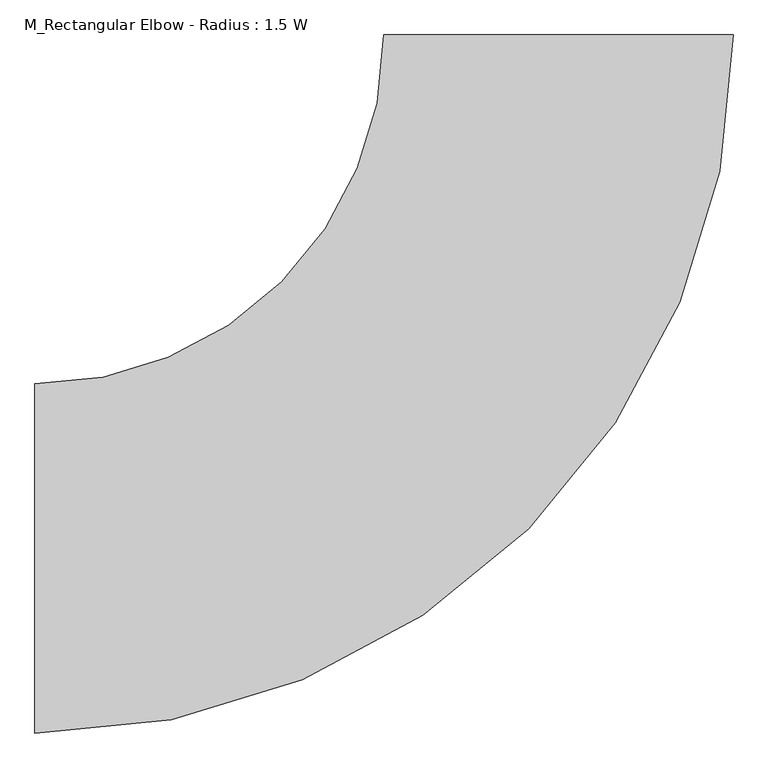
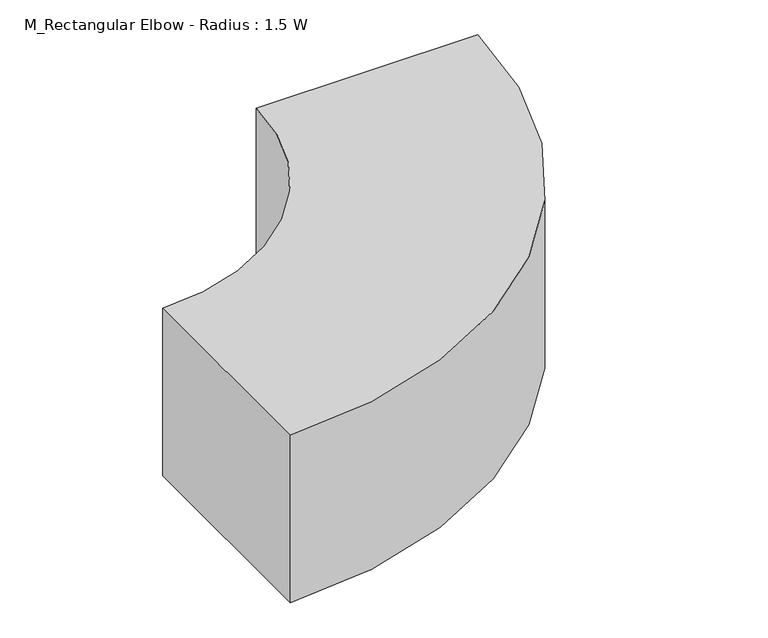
"""IFC4 building model written with IfcOpenShell, lengths in millimetres: duct fitting geometry, M_Rectangular Elbow - Radius : 1.5 W."""

from ifc_helpers import new_model, si_unit, point, frame, frame_2d, origin, place, context, project, spatial, polyline, circle_curve, trimmed, segment, composite_curve, outline, extrude, source, transform, mapped, element, save


def m_rectangular_elbow_radius_1_5_w_08ef6bfe(model_context):
    return source(origin(), model_context, "Body", "SweptSolid", [
        extrude(outline(composite_curve([segment(trimmed(circle_curve(frame_2d((-750.0, 750.0)), 1000.0), [point((250.0, 750.0))], [point((-750.0, -250.0))], False, "CARTESIAN"), True, "CONTINUOUS"), segment(polyline([(-750.0, -250.0), (-750.0, 250.0)]), True, "CONTINUOUS"), segment(trimmed(circle_curve(frame_2d((-750.0, 750.0)), 500.0), [point((-750.0, 250.0))], [point((-250.0, 750.0))], True, "CARTESIAN"), True, "CONTINUOUS"), segment(polyline([(-250.0, 750.0), (250.0, 750.0)]), True, "CONTINUOUS")], self_intersect=False)), frame((0.0, 0.0, -200.0), z_axis=(0.0, 0.0, 1.0), x_axis=(1.0, 0.0, 0.0)), (0.0, 0.0, 1.0), 400.0),
        extrude(outline(composite_curve([segment(trimmed(circle_curve(frame_2d((-750.0, 750.0)), 1000.0), [point((250.0, 750.0))], [point((-750.0, -250.0))], False, "CARTESIAN"), True, "CONTINUOUS"), segment(polyline([(-750.0, -250.0), (-750.0, 250.0)]), True, "CONTINUOUS"), segment(trimmed(circle_curve(frame_2d((-750.0, 750.0)), 500.0), [point((-750.0, 250.0))], [point((-250.0, 750.0))], True, "CARTESIAN"), True, "CONTINUOUS"), segment(polyline([(-250.0, 750.0), (250.0, 750.0)]), True, "CONTINUOUS")], self_intersect=False)), frame((0.0, 0.0, -200.0), z_axis=(0.0, 0.0, 1.0), x_axis=(1.0, 0.0, 0.0)), (0.0, 0.0, 1.0), 400.0),
        extrude(outline(composite_curve([segment(trimmed(circle_curve(frame_2d((-750.0, 750.0)), 1000.0), [point((250.0, 750.0))], [point((-750.0, -250.0))], False, "CARTESIAN"), True, "CONTINUOUS"), segment(polyline([(-750.0, -250.0), (-750.0, 250.0)]), True, "CONTINUOUS"), segment(trimmed(circle_curve(frame_2d((-750.0, 750.0)), 500.0), [point((-750.0, 250.0))], [point((-250.0, 750.0))], True, "CARTESIAN"), True, "CONTINUOUS"), segment(polyline([(-250.0, 750.0), (250.0, 750.0)]), True, "CONTINUOUS")], self_intersect=False)), frame((0.0, 0.0, -200.0), z_axis=(0.0, 0.0, 1.0), x_axis=(1.0, 0.0, 0.0)), (0.0, 0.0, 1.0), 400.0),
    ])


if __name__ == "__main__":
    model = new_model("IFC4")
    model_context = context("Model", 3, world=origin())
    ifc_project = project(units=[si_unit("LENGTHUNIT", "METRE", prefix="MILLI")], contexts=[model_context])
    site = spatial("IfcSite", under=ifc_project)
    building = spatial("IfcBuilding", under=site)
    placement = place(None, origin())
    m_rectangular_elbow_radius_1_5_w_shape = m_rectangular_elbow_radius_1_5_w_08ef6bfe(model_context)
    element("IfcDuctFitting", 1, ObjectType="M_Rectangular Elbow - Radius : 1.5 W", at=placement, inside=building, context=model_context, shape_type="MappedRepresentation", body=[
        mapped(m_rectangular_elbow_radius_1_5_w_shape, transform((0.0, 0.0, 0.0), x_axis=(1.0, 0.0, 0.0), y_axis=(0.0, 1.0, 0.0), z_axis=(0.0, 0.0, 1.0))),
    ])
    save(model, "model.ifc")
